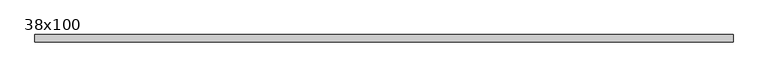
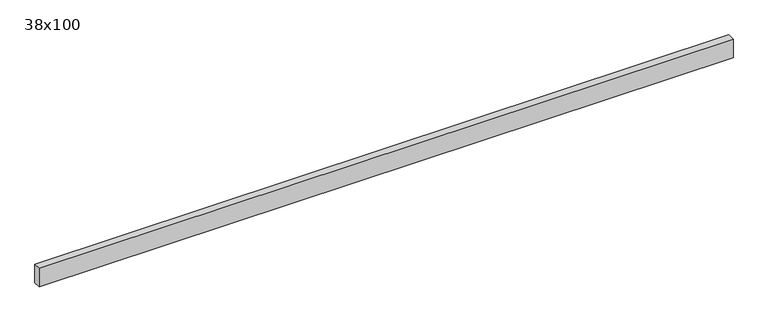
"""IFC4 building model written with IfcOpenShell, lengths in millimetres: beam geometry, Poutre - Bois de construction de dimensions courantes : 38x100."""

from ifc_helpers import new_model, si_unit, frame, origin, place, context, project, spatial, polyline, outline, extrude, source, transform, mapped, element, save


def beam_38x100_f41fabf9(model_context):
    return source(origin(), model_context, "Body", "SweptSolid", [
        extrude(outline(polyline([(1712.5, 19.05), (1712.5, -19.05), (-1862.5, -19.05), (-1862.5, 19.05), (1712.5, 19.05)])), frame((0.0, 0.0, -50.0), z_axis=(0.0, 0.0, 1.0), x_axis=(1.0, 0.0, 0.0)), (0.0, 0.0, 1.0), 100.0),
    ])


if __name__ == "__main__":
    model = new_model("IFC4")
    model_context = context("Model", 3, world=origin())
    ifc_project = project(units=[si_unit("LENGTHUNIT", "METRE", prefix="MILLI")], contexts=[model_context])
    site = spatial("IfcSite", under=ifc_project)
    building = spatial("IfcBuilding", under=site)
    placement = place(None, origin())
    beam_38x100_shape = beam_38x100_f41fabf9(model_context)
    element("IfcBeam", 1, ObjectType="Poutre - Bois de construction de dimensions courantes : 38x100", at=placement, inside=building, context=model_context, shape_type="MappedRepresentation", body=[
        mapped(beam_38x100_shape, transform((0.0, 0.0, 0.0), x_axis=(1.0, 0.0, 0.0), y_axis=(0.0, 1.0, 0.0), z_axis=(0.0, 0.0, 1.0))),
    ])
    save(model, "model.ifc")
